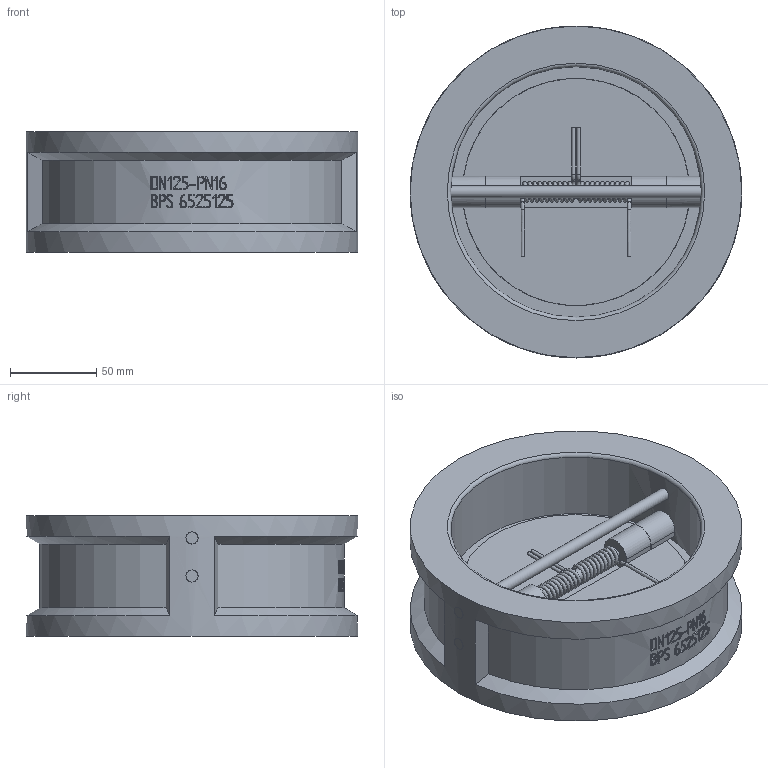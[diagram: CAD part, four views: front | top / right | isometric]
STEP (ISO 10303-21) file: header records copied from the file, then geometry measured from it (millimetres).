
FILE_DESCRIPTION( ( 'Unknown' ), '1' );
FILE_NAME( 'C:/Documents and Settings/Klaus/My Documents/Rootsi BPS 3D, Klaus/BPS 6525 double-door swing check valve/STEP/BPS6525125 double door swing check valve DN125.stp', 'Unknown', ( 'Unknown' ), ( 'Unknown' ), 'PSStep 10.1', 'Unknown', ' ' );
FILE_SCHEMA( ( 'AUTOMOTIVE_DESIGN { 1 0 10303 214 1 1 1 1 }' ) );
Length unit declared in the file: millimetre
Products named in the file (1): 1
Bounding box: 192 x 192 x 70 mm (x, y, z)
Volume: 1064872.3 mm3; surface area: 144811.6 mm2
Topology: 1 solids, 1 shells, 296 faces, 737 edges, 476 vertices
Faces by surface type: plane 131, bspline 94, cylinder 58, torus 7, cone 6
Full cylindrical faces by diameter (mm): 2 x6, 7 x4, 131.4 x1, 145 x1, 192 x1
Entity records: 21884 total; most frequent: CARTESIAN_POINT 13927, ORIENTED_EDGE 1390, EDGE_CURVE 695, DIRECTION 644, B_SPLINE_CURVE_WITH_KNOTS 531, VERTEX_POINT 464, EDGE_LOOP 371, FACE_OUTER_BOUND 322
